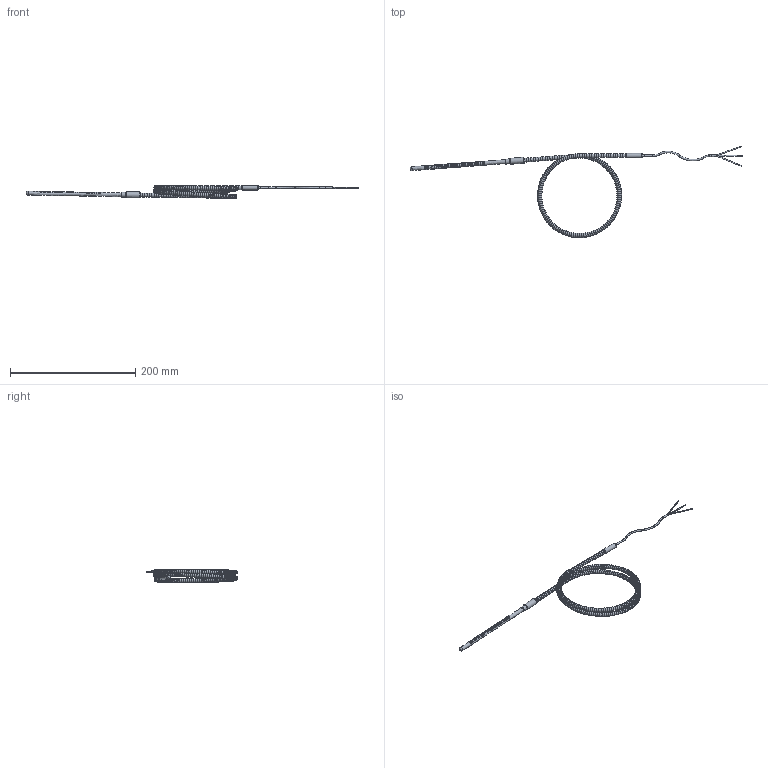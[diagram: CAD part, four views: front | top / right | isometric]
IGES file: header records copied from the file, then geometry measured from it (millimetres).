
Global section: file name: SS-Armor-RTD-IGS; native system: Autodesk Inventor 2014; preprocessor: unknown; author: Charles; date: 20160114.112851; units: inch
Bounding box: 529.76 x 145.99 x 20.83 mm (x, y, z)
Volume: 41201.7 mm3; surface area: 25643.5 mm2
Topology: 1 solids, 1 shells, 840 faces, 1954 edges, 1364 vertices
Faces by surface type: bspline 840
